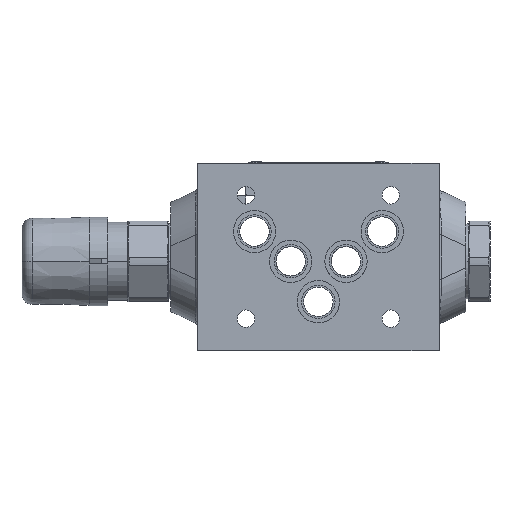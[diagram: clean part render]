
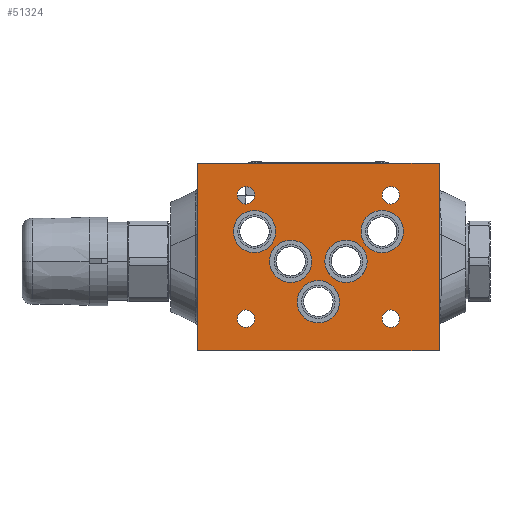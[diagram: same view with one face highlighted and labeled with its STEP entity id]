
A CAD part, front view. The second image highlights one B-rep face of the part: STEP entity #51324.
In plain terms, the highlighted planar face has unit normal (0, -1, 0).
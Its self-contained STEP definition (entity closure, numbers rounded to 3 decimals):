
#50643=CARTESIAN_POINT('',(28.,-0.4,72.));
#50644=DIRECTION('',(0.,-1.,0.));
#50645=DIRECTION('',(1.,0.,0.));
#50646=AXIS2_PLACEMENT_3D('',#50643,#50644,#50645);
#50651=CARTESIAN_POINT('',(28.,-0.4,72.));
#50652=DIRECTION('',(0.,-1.,0.));
#50653=DIRECTION('',(-1.,0.,0.));
#50654=AXIS2_PLACEMENT_3D('',#50651,#50652,#50653);
#50659=DIRECTION('',(1.,0.,0.));
#50660=VECTOR('',#50659,70.);
#50661=CARTESIAN_POINT('',(-30.,-0.4,90.));
#50662=LINE('',#50661,#50660);
#50666=DIRECTION('',(-1.,0.,0.));
#50667=VECTOR('',#50666,70.);
#50668=CARTESIAN_POINT('',(40.,-0.4,0.));
#50669=LINE('',#50668,#50667);
#50673=DIRECTION('',(0.,0.,1.));
#50674=VECTOR('',#50673,90.);
#50675=CARTESIAN_POINT('',(-30.,-0.4,0.));
#50676=LINE('',#50675,#50674);
#50680=CARTESIAN_POINT('',(28.,-0.4,18.));
#50681=DIRECTION('',(0.,-1.,0.));
#50682=DIRECTION('',(1.,0.,0.));
#50683=AXIS2_PLACEMENT_3D('',#50680,#50681,#50682);
#50688=CARTESIAN_POINT('',(28.,-0.4,18.));
#50689=DIRECTION('',(0.,-1.,0.));
#50690=DIRECTION('',(-1.,0.,0.));
#50691=AXIS2_PLACEMENT_3D('',#50688,#50689,#50690);
#50696=CARTESIAN_POINT('',(-18.,-0.4,18.));
#50697=DIRECTION('',(0.,-1.,0.));
#50698=DIRECTION('',(1.,0.,0.));
#50699=AXIS2_PLACEMENT_3D('',#50696,#50697,#50698);
#50704=CARTESIAN_POINT('',(-18.,-0.4,18.));
#50705=DIRECTION('',(0.,-1.,0.));
#50706=DIRECTION('',(-1.,0.,0.));
#50707=AXIS2_PLACEMENT_3D('',#50704,#50705,#50706);
#50712=CARTESIAN_POINT('',(-18.,-0.4,72.));
#50713=DIRECTION('',(0.,-1.,0.));
#50714=DIRECTION('',(1.,0.,0.));
#50715=AXIS2_PLACEMENT_3D('',#50712,#50713,#50714);
#50720=CARTESIAN_POINT('',(-18.,-0.4,72.));
#50721=DIRECTION('',(0.,-1.,0.));
#50722=DIRECTION('',(-1.,0.,0.));
#50723=AXIS2_PLACEMENT_3D('',#50720,#50721,#50722);
#50728=CARTESIAN_POINT('',(14.5,-0.4,68.8));
#50729=DIRECTION('',(0.,-1.,0.));
#50730=DIRECTION('',(0.,0.,-1.));
#50731=AXIS2_PLACEMENT_3D('',#50728,#50729,#50730);
#50736=CARTESIAN_POINT('',(14.5,-0.4,68.8));
#50737=DIRECTION('',(0.,-1.,0.));
#50738=DIRECTION('',(0.,0.,1.));
#50739=AXIS2_PLACEMENT_3D('',#50736,#50737,#50738);
#50744=CARTESIAN_POINT('',(3.4,-0.4,55.3));
#50745=DIRECTION('',(0.,-1.,0.));
#50746=DIRECTION('',(0.,0.,-1.));
#50747=AXIS2_PLACEMENT_3D('',#50744,#50745,#50746);
#50752=CARTESIAN_POINT('',(3.4,-0.4,55.3));
#50753=DIRECTION('',(0.,-1.,0.));
#50754=DIRECTION('',(0.,0.,1.));
#50755=AXIS2_PLACEMENT_3D('',#50752,#50753,#50754);
#50760=CARTESIAN_POINT('',(-11.7,-0.4,45.));
#50761=DIRECTION('',(0.,-1.,0.));
#50762=DIRECTION('',(0.,0.,-1.));
#50763=AXIS2_PLACEMENT_3D('',#50760,#50761,#50762);
#50768=CARTESIAN_POINT('',(-11.7,-0.4,45.));
#50769=DIRECTION('',(0.,-1.,0.));
#50770=DIRECTION('',(0.,0.,1.));
#50771=AXIS2_PLACEMENT_3D('',#50768,#50769,#50770);
#50776=CARTESIAN_POINT('',(3.4,-0.4,34.7));
#50777=DIRECTION('',(0.,-1.,0.));
#50778=DIRECTION('',(0.,0.,-1.));
#50779=AXIS2_PLACEMENT_3D('',#50776,#50777,#50778);
#50784=CARTESIAN_POINT('',(3.4,-0.4,34.7));
#50785=DIRECTION('',(0.,-1.,0.));
#50786=DIRECTION('',(0.,0.,1.));
#50787=AXIS2_PLACEMENT_3D('',#50784,#50785,#50786);
#50792=CARTESIAN_POINT('',(14.5,-0.4,21.2));
#50793=DIRECTION('',(0.,-1.,0.));
#50794=DIRECTION('',(0.,0.,-1.));
#50795=AXIS2_PLACEMENT_3D('',#50792,#50793,#50794);
#50800=CARTESIAN_POINT('',(14.5,-0.4,21.2));
#50801=DIRECTION('',(0.,-1.,0.));
#50802=DIRECTION('',(0.,0.,1.));
#50803=AXIS2_PLACEMENT_3D('',#50800,#50801,#50802);
#50980=DIRECTION('',(0.,0.,1.));
#50981=VECTOR('',#50980,90.);
#50982=CARTESIAN_POINT('',(40.,-0.4,0.));
#50983=LINE('',#50982,#50981);
#51134=CARTESIAN_POINT('',(40.,-0.4,0.));
#51136=VERTEX_POINT('',#51134);
#51142=CARTESIAN_POINT('',(-30.,-0.4,0.));
#51143=VERTEX_POINT('',#51142);
#51144=CARTESIAN_POINT('',(40.,-0.4,90.));
#51146=VERTEX_POINT('',#51144);
#51152=CARTESIAN_POINT('',(-30.,-0.4,90.));
#51153=VERTEX_POINT('',#51152);
#51154=CARTESIAN_POINT('',(31.25,-0.4,72.));
#51155=CARTESIAN_POINT('',(24.75,-0.4,72.));
#51156=VERTEX_POINT('',#51154);
#51157=VERTEX_POINT('',#51155);
#51162=CARTESIAN_POINT('',(31.25,-0.4,18.));
#51163=CARTESIAN_POINT('',(24.75,-0.4,18.));
#51164=VERTEX_POINT('',#51162);
#51165=VERTEX_POINT('',#51163);
#51170=CARTESIAN_POINT('',(-14.75,-0.4,18.));
#51171=CARTESIAN_POINT('',(-21.25,-0.4,18.));
#51172=VERTEX_POINT('',#51170);
#51173=VERTEX_POINT('',#51171);
#51178=CARTESIAN_POINT('',(-14.75,-0.4,72.));
#51179=CARTESIAN_POINT('',(-21.25,-0.4,72.));
#51180=VERTEX_POINT('',#51178);
#51181=VERTEX_POINT('',#51179);
#51186=CARTESIAN_POINT('',(14.5,-0.4,61.));
#51187=CARTESIAN_POINT('',(14.5,-0.4,76.6));
#51188=VERTEX_POINT('',#51186);
#51189=VERTEX_POINT('',#51187);
#51190=CARTESIAN_POINT('',(3.4,-0.4,47.5));
#51191=CARTESIAN_POINT('',(3.4,-0.4,63.1));
#51192=VERTEX_POINT('',#51190);
#51193=VERTEX_POINT('',#51191);
#51194=CARTESIAN_POINT('',(-11.7,-0.4,37.2));
#51195=CARTESIAN_POINT('',(-11.7,-0.4,52.8));
#51196=VERTEX_POINT('',#51194);
#51197=VERTEX_POINT('',#51195);
#51198=CARTESIAN_POINT('',(3.4,-0.4,26.9));
#51199=CARTESIAN_POINT('',(3.4,-0.4,42.5));
#51200=VERTEX_POINT('',#51198);
#51201=VERTEX_POINT('',#51199);
#51202=CARTESIAN_POINT('',(14.5,-0.4,13.4));
#51203=CARTESIAN_POINT('',(14.5,-0.4,29.));
#51204=VERTEX_POINT('',#51202);
#51205=VERTEX_POINT('',#51203);
#51256=CARTESIAN_POINT('',(-30.,-0.4,0.));
#51257=DIRECTION('',(0.,-1.,0.));
#51258=DIRECTION('',(1.,0.,0.));
#51259=AXIS2_PLACEMENT_3D('',#51256,#51257,#51258);
#51260=PLANE('',#51259);
#51262=ORIENTED_EDGE('',*,*,#51261,.T.);
#51264=ORIENTED_EDGE('',*,*,#51263,.F.);
#51265=ORIENTED_EDGE('',*,*,#51231,.T.);
#51267=ORIENTED_EDGE('',*,*,#51266,.T.);
#51268=EDGE_LOOP('',(#51262,#51264,#51265,#51267));
#51269=FACE_OUTER_BOUND('',#51268,.F.);
#51271=ORIENTED_EDGE('',*,*,#51270,.T.);
#51273=ORIENTED_EDGE('',*,*,#51272,.T.);
#51274=EDGE_LOOP('',(#51271,#51273));
#51275=FACE_BOUND('',#51274,.F.);
#51277=ORIENTED_EDGE('',*,*,#51276,.T.);
#51279=ORIENTED_EDGE('',*,*,#51278,.T.);
#51280=EDGE_LOOP('',(#51277,#51279));
#51281=FACE_BOUND('',#51280,.F.);
#51283=ORIENTED_EDGE('',*,*,#51282,.T.);
#51285=ORIENTED_EDGE('',*,*,#51284,.T.);
#51286=EDGE_LOOP('',(#51283,#51285));
#51287=FACE_BOUND('',#51286,.F.);
#51289=ORIENTED_EDGE('',*,*,#51288,.T.);
#51291=ORIENTED_EDGE('',*,*,#51290,.T.);
#51292=EDGE_LOOP('',(#51289,#51291));
#51293=FACE_BOUND('',#51292,.F.);
#51295=ORIENTED_EDGE('',*,*,#51294,.T.);
#51297=ORIENTED_EDGE('',*,*,#51296,.T.);
#51298=EDGE_LOOP('',(#51295,#51297));
#51299=FACE_BOUND('',#51298,.F.);
#51301=ORIENTED_EDGE('',*,*,#51300,.T.);
#51303=ORIENTED_EDGE('',*,*,#51302,.T.);
#51304=EDGE_LOOP('',(#51301,#51303));
#51305=FACE_BOUND('',#51304,.F.);
#51307=ORIENTED_EDGE('',*,*,#51306,.T.);
#51309=ORIENTED_EDGE('',*,*,#51308,.T.);
#51310=EDGE_LOOP('',(#51307,#51309));
#51311=FACE_BOUND('',#51310,.F.);
#51313=ORIENTED_EDGE('',*,*,#51312,.T.);
#51315=ORIENTED_EDGE('',*,*,#51314,.T.);
#51316=EDGE_LOOP('',(#51313,#51315));
#51317=FACE_BOUND('',#51316,.F.);
#51319=ORIENTED_EDGE('',*,*,#51318,.T.);
#51321=ORIENTED_EDGE('',*,*,#51320,.T.);
#51322=EDGE_LOOP('',(#51319,#51321));
#51323=FACE_BOUND('',#51322,.F.);
#50647=CIRCLE('',#50646,3.25);
#50655=CIRCLE('',#50654,3.25);
#50684=CIRCLE('',#50683,3.25);
#50692=CIRCLE('',#50691,3.25);
#50700=CIRCLE('',#50699,3.25);
#50708=CIRCLE('',#50707,3.25);
#50716=CIRCLE('',#50715,3.25);
#50724=CIRCLE('',#50723,3.25);
#50732=CIRCLE('',#50731,7.8);
#50740=CIRCLE('',#50739,7.8);
#50748=CIRCLE('',#50747,7.8);
#50756=CIRCLE('',#50755,7.8);
#50764=CIRCLE('',#50763,7.8);
#50772=CIRCLE('',#50771,7.8);
#50780=CIRCLE('',#50779,7.8);
#50788=CIRCLE('',#50787,7.8);
#50796=CIRCLE('',#50795,7.8);
#50804=CIRCLE('',#50803,7.8);
#51231=EDGE_CURVE('',#51136,#51143,#50669,.T.);
#51261=EDGE_CURVE('',#51153,#51146,#50662,.T.);
#51263=EDGE_CURVE('',#51136,#51146,#50983,.T.);
#51266=EDGE_CURVE('',#51143,#51153,#50676,.T.);
#51270=EDGE_CURVE('',#51156,#51157,#50647,.T.);
#51272=EDGE_CURVE('',#51157,#51156,#50655,.T.);
#51276=EDGE_CURVE('',#51164,#51165,#50684,.T.);
#51278=EDGE_CURVE('',#51165,#51164,#50692,.T.);
#51282=EDGE_CURVE('',#51172,#51173,#50700,.T.);
#51284=EDGE_CURVE('',#51173,#51172,#50708,.T.);
#51288=EDGE_CURVE('',#51180,#51181,#50716,.T.);
#51290=EDGE_CURVE('',#51181,#51180,#50724,.T.);
#51294=EDGE_CURVE('',#51188,#51189,#50732,.T.);
#51296=EDGE_CURVE('',#51189,#51188,#50740,.T.);
#51300=EDGE_CURVE('',#51192,#51193,#50748,.T.);
#51302=EDGE_CURVE('',#51193,#51192,#50756,.T.);
#51306=EDGE_CURVE('',#51196,#51197,#50764,.T.);
#51308=EDGE_CURVE('',#51197,#51196,#50772,.T.);
#51312=EDGE_CURVE('',#51200,#51201,#50780,.T.);
#51314=EDGE_CURVE('',#51201,#51200,#50788,.T.);
#51318=EDGE_CURVE('',#51204,#51205,#50796,.T.);
#51320=EDGE_CURVE('',#51205,#51204,#50804,.T.);
#51324=ADVANCED_FACE('',(#51269,#51275,#51281,#51287,#51293,#51299,#51305,
#51311,#51317,#51323),#51260,.T.);
